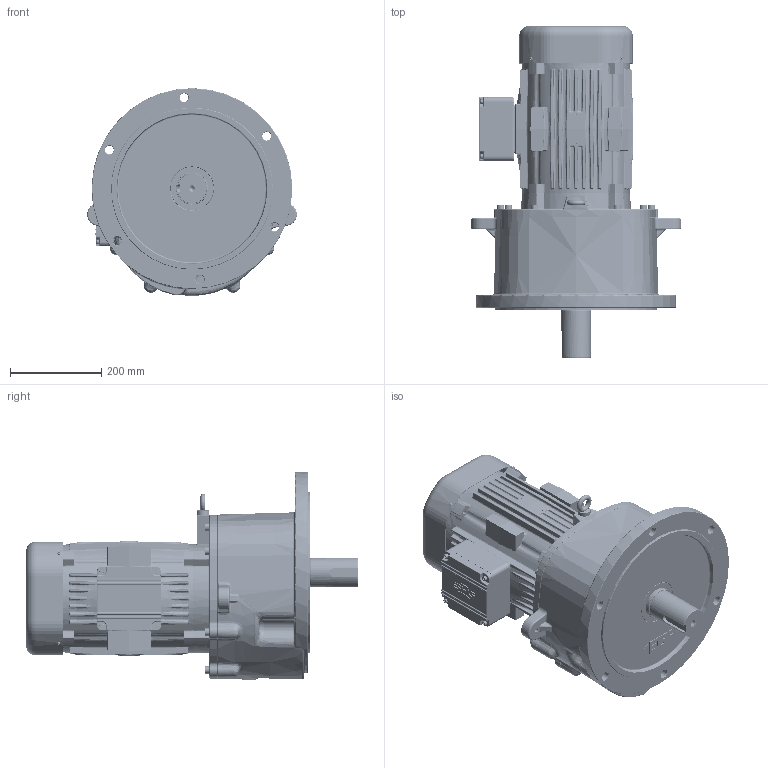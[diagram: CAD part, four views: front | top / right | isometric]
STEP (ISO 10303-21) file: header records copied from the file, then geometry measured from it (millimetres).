
FILE_DESCRIPTION(/* description */ (''),/* implementation_level */ '2;1');
FILE_NAME(/* name */ 'Z:\동력 3D 파일\PMK235_7.5kW_3D.stp',/* time_stamp */ '2021-12-01T15:33:26+09:00',/* author */ ('jaebok'),/* organization */ (''),/* preprocessor_version */ 'ST-DEVELOPER v18.1',/* originating_system */ 'Autodesk Inventor 2022',/* authorisation */ '');
FILE_SCHEMA (('AUTOMOTIVE_DESIGN { 1 0 10303 214 3 1 1 }','MODEL_BASED_INTEGRATED_MANUFACTURING_SCHEMA'));
Products named in the file (1): 부품29
Bounding box: 459.83 x 728 x 455.2 mm (x, y, z)
Volume: 16011533 mm3; surface area: 2393841.5 mm2
Topology: 2 solids, 22 shells, 5365 faces, 13138 edges, 7701 vertices
Faces by surface type: bspline 1794, plane 1291, cylinder 1262, torus 485, sphere 298, cone 235
Full cylindrical faces by diameter (mm): 3.242 x4, 4.134 x4, 4.917 x9, 5 x16, 6 x9, 6.5 x8, 6.647 x9, 7 x4, 8 x4, 8.376 x1, 9.5 x4, 10 x16, 10.106 x11, 12 x9, 13 x8, 13.2 x1, 13.835 x1, 15 x1, 16 x8, 19 x6, 20 x1, 28 x1, 32 x1, 34 x2, 50 x2, 55 x1, 60 x1, 62 x1, 65 x1, 70 x5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
Entity records: 212937 total; most frequent: CARTESIAN_POINT 93162, ORIENTED_EDGE 25658, DIRECTION 21229, EDGE_CURVE 12829, AXIS2_PLACEMENT_3D 8417, VERTEX_POINT 7698, EDGE_LOOP 5685, FACE_OUTER_BOUND 5365
